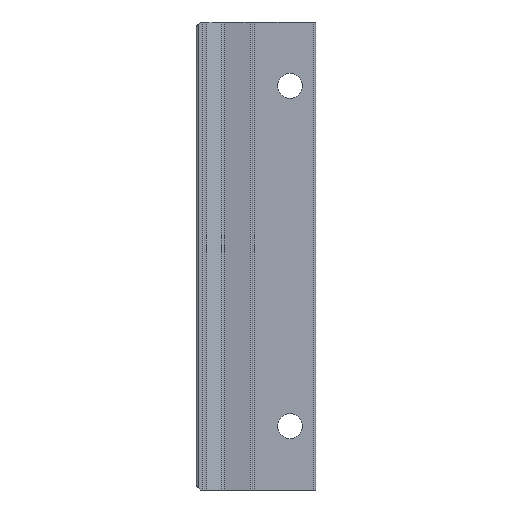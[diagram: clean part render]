
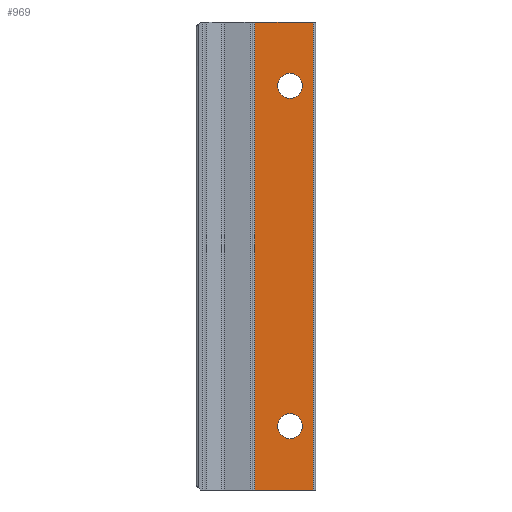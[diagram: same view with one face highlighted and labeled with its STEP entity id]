
A CAD part, front view. The second image highlights one B-rep face of the part: STEP entity #969.
In plain terms, the highlighted planar face has unit normal (0, -1, 0).
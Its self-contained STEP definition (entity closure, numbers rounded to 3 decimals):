
#4 = CARTESIAN_POINT ( 'NONE',  ( -14.3, -2., 0. ) ) ;
#11 = CARTESIAN_POINT ( 'NONE',  ( -6., -2., 97.912 ) ) ;
#17 = VERTEX_POINT ( 'NONE', #26 ) ;
#26 = CARTESIAN_POINT ( 'NONE',  ( -6., -2., 17.912 ) ) ;
#28 = ORIENTED_EDGE ( 'NONE', *, *, #951, .T. ) ;
#37 = LINE ( 'NONE', #387, #442 ) ;
#40 = ORIENTED_EDGE ( 'NONE', *, *, #507, .T. ) ;
#64 = DIRECTION ( 'NONE',  ( 0., 0., 1. ) ) ;
#66 = VECTOR ( 'NONE', #134, 1000. ) ;
#71 = CARTESIAN_POINT ( 'NONE',  ( -14.3, -2., 0. ) ) ;
#117 = LINE ( 'NONE', #4, #497 ) ;
#134 = DIRECTION ( 'NONE',  ( 1., 0., 0. ) ) ;
#162 = AXIS2_PLACEMENT_3D ( 'NONE', #1054, #597, #963 ) ;
#178 = DIRECTION ( 'NONE',  ( 0., 0., 1. ) ) ;
#185 = CARTESIAN_POINT ( 'NONE',  ( -6., -2., 12.088 ) ) ;
#213 = CIRCLE ( 'NONE', #421, 2.912 ) ;
#244 = CARTESIAN_POINT ( 'NONE',  ( -0.5, -2., 110. ) ) ;
#280 = EDGE_LOOP ( 'NONE', ( #1159, #40, #1083, #948 ) ) ;
#284 = DIRECTION ( 'NONE',  ( 0., 0., -1. ) ) ;
#285 = EDGE_CURVE ( 'NONE', #795, #869, #117, .T. ) ;
#321 = PLANE ( 'NONE',  #162 ) ;
#335 = VERTEX_POINT ( 'NONE', #11 ) ;
#342 = FACE_BOUND ( 'NONE', #1028, .T. ) ;
#377 = EDGE_CURVE ( 'NONE', #795, #936, #37, .T. ) ;
#387 = CARTESIAN_POINT ( 'NONE',  ( -14.8, -2., 110. ) ) ;
#411 = DIRECTION ( 'NONE',  ( 0., 1., 0. ) ) ;
#421 = AXIS2_PLACEMENT_3D ( 'NONE', #1106, #734, #178 ) ;
#423 = CARTESIAN_POINT ( 'NONE',  ( -6., -2., 92.088 ) ) ;
#442 = VECTOR ( 'NONE', #1027, 1000. ) ;
#497 = VECTOR ( 'NONE', #284, 1000. ) ;
#499 = EDGE_CURVE ( 'NONE', #869, #688, #933, .T. ) ;
#507 = EDGE_CURVE ( 'NONE', #688, #936, #702, .T. ) ;
#535 = CIRCLE ( 'NONE', #672, 2.912 ) ;
#597 = DIRECTION ( 'NONE',  ( 0., 1., 0. ) ) ;
#617 = EDGE_CURVE ( 'NONE', #894, #335, #213, .T. ) ;
#623 = VERTEX_POINT ( 'NONE', #185 ) ;
#656 = ORIENTED_EDGE ( 'NONE', *, *, #617, .T. ) ;
#672 = AXIS2_PLACEMENT_3D ( 'NONE', #778, #801, #1170 ) ;
#686 = CARTESIAN_POINT ( 'NONE',  ( -6., -2., 15. ) ) ;
#688 = VERTEX_POINT ( 'NONE', #1098 ) ;
#689 = VECTOR ( 'NONE', #964, 1000. ) ;
#702 = LINE ( 'NONE', #792, #689 ) ;
#710 = FACE_BOUND ( 'NONE', #836, .T. ) ;
#729 = CIRCLE ( 'NONE', #748, 2.912 ) ;
#734 = DIRECTION ( 'NONE',  ( 0., 1., 0. ) ) ;
#748 = AXIS2_PLACEMENT_3D ( 'NONE', #796, #411, #64 ) ;
#767 = CARTESIAN_POINT ( 'NONE',  ( -14.3, -2., 110. ) ) ;
#778 = CARTESIAN_POINT ( 'NONE',  ( -6., -2., 15. ) ) ;
#784 = DIRECTION ( 'NONE',  ( 0., 1., 0. ) ) ;
#792 = CARTESIAN_POINT ( 'NONE',  ( -0.5, -2., 110. ) ) ;
#795 = VERTEX_POINT ( 'NONE', #767 ) ;
#796 = CARTESIAN_POINT ( 'NONE',  ( -6., -2., 95. ) ) ;
#801 = DIRECTION ( 'NONE',  ( 0., 1., 0. ) ) ;
#836 = EDGE_LOOP ( 'NONE', ( #1100, #28 ) ) ;
#868 = EDGE_CURVE ( 'NONE', #17, #623, #979, .T. ) ;
#869 = VERTEX_POINT ( 'NONE', #71 ) ;
#893 = EDGE_CURVE ( 'NONE', #335, #894, #729, .T. ) ;
#894 = VERTEX_POINT ( 'NONE', #423 ) ;
#933 = LINE ( 'NONE', #1039, #66 ) ;
#936 = VERTEX_POINT ( 'NONE', #244 ) ;
#948 = ORIENTED_EDGE ( 'NONE', *, *, #285, .T. ) ;
#951 = EDGE_CURVE ( 'NONE', #623, #17, #535, .T. ) ;
#963 = DIRECTION ( 'NONE',  ( 0., 0., 1. ) ) ;
#964 = DIRECTION ( 'NONE',  ( 0., 0., 1. ) ) ;
#968 = DIRECTION ( 'NONE',  ( 0., 0., 1. ) ) ;
#969 = ADVANCED_FACE ( 'NONE', ( #342, #710, #1146 ), #321, .F. ) ;
#979 = CIRCLE ( 'NONE', #996, 2.912 ) ;
#996 = AXIS2_PLACEMENT_3D ( 'NONE', #686, #784, #968 ) ;
#1027 = DIRECTION ( 'NONE',  ( 1., 0., 0. ) ) ;
#1028 = EDGE_LOOP ( 'NONE', ( #1058, #656 ) ) ;
#1039 = CARTESIAN_POINT ( 'NONE',  ( -14.8, -2., 0. ) ) ;
#1054 = CARTESIAN_POINT ( 'NONE',  ( -14.8, -2., 110. ) ) ;
#1058 = ORIENTED_EDGE ( 'NONE', *, *, #893, .T. ) ;
#1083 = ORIENTED_EDGE ( 'NONE', *, *, #377, .F. ) ;
#1098 = CARTESIAN_POINT ( 'NONE',  ( -0.5, -2., 0. ) ) ;
#1100 = ORIENTED_EDGE ( 'NONE', *, *, #868, .T. ) ;
#1106 = CARTESIAN_POINT ( 'NONE',  ( -6., -2., 95. ) ) ;
#1146 = FACE_OUTER_BOUND ( 'NONE', #280, .T. ) ;
#1159 = ORIENTED_EDGE ( 'NONE', *, *, #499, .T. ) ;
#1170 = DIRECTION ( 'NONE',  ( 0., 0., 1. ) ) ;
